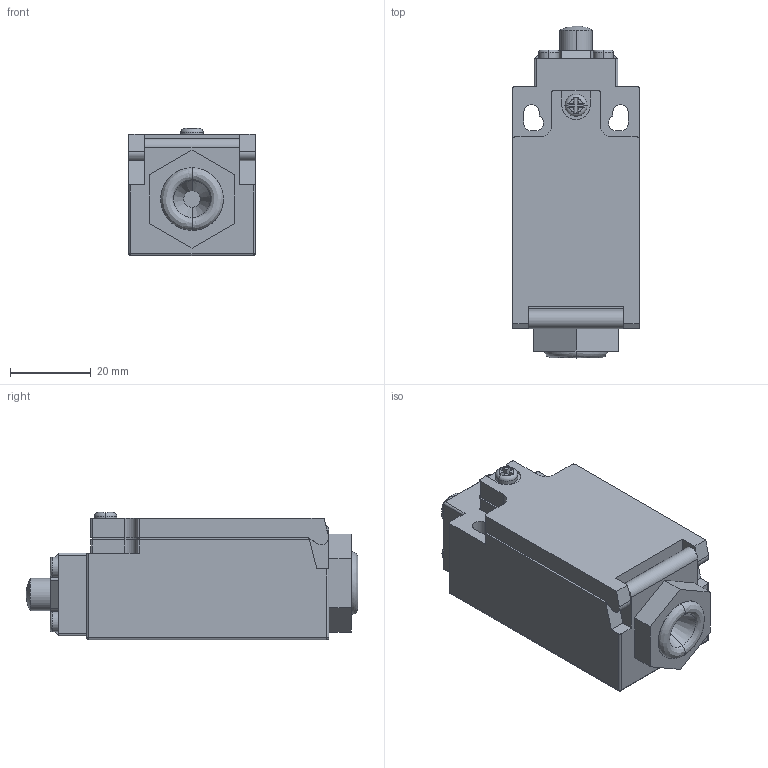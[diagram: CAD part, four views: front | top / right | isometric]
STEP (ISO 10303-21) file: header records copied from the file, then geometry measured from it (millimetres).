
FILE_DESCRIPTION (( 'STEP AP203' ), '1' );
FILE_NAME ('FM9211.STEP', '2018-06-01T16:58:58', ( '' ), ( '' ), 'SwSTEP 2.0', 'SolidWorks 2012', '' );
FILE_SCHEMA (( 'CONFIG_CONTROL_DESIGN' ));
Length unit declared in the file: millimetre
Products named in the file (1): FM9211
Bounding box: 31.3 x 82.2 x 31.5 mm (x, y, z)
Volume: 58492.4 mm3; surface area: 11774.9 mm2
Topology: 1 solids, 1 shells, 245 faces, 660 edges, 420 vertices
Faces by surface type: plane 157, cylinder 62, torus 17, sphere 5, bspline 2, cone 2
Entity records: 7983 total; most frequent: CARTESIAN_POINT 1715, ORIENTED_EDGE 1306, DIRECTION 1274, EDGE_CURVE 653, LINE 476, VECTOR 476, VERTEX_POINT 418, AXIS2_PLACEMENT_3D 399
